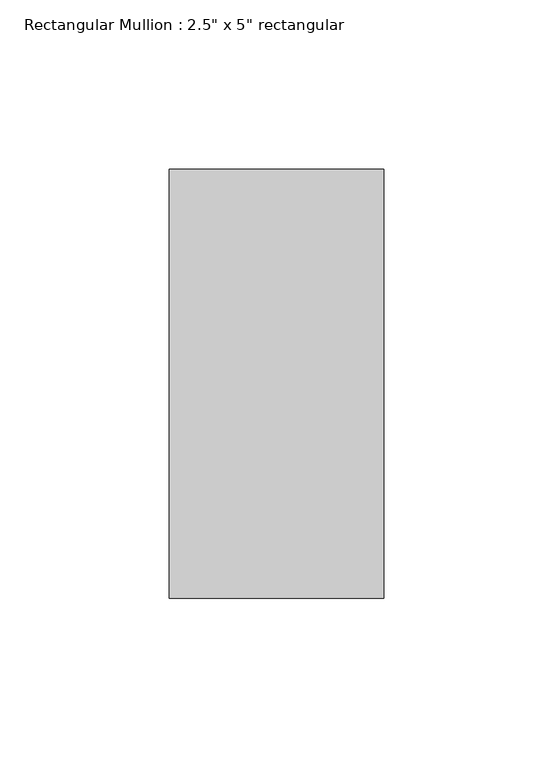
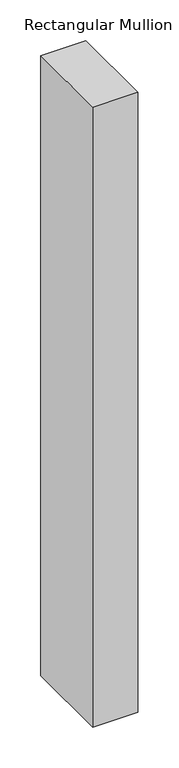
"""IFC4 building model written with IfcOpenShell, lengths in millimetres: member geometry."""

from ifc_helpers import new_model, si_unit, frame, origin, place, context, project, spatial, polyline, outline, extrude, source, transform, mapped, element, save


def member_e8c22809(model_context):
    return source(origin(), model_context, "Body", "SweptSolid", [
        extrude(outline(polyline([(0.0, 63.5), (0.0, -63.5), (-63.5, -63.5), (-63.5, 63.5), (0.0, 63.5)])), frame((0.0, 0.0, -925.0176127), z_axis=(0.0, 0.0, 1.0), x_axis=(1.0, 0.0, 0.0)), (0.0, 0.0, 1.0), 925.0176127),
    ])


if __name__ == "__main__":
    model = new_model("IFC4")
    model_context = context("Model", 3, world=origin())
    ifc_project = project(units=[si_unit("LENGTHUNIT", "METRE", prefix="MILLI")], contexts=[model_context])
    site = spatial("IfcSite", under=ifc_project)
    building = spatial("IfcBuilding", under=site)
    placement = place(None, origin())
    member_shape = member_e8c22809(model_context)
    element("IfcMember", 1, ObjectType="Rectangular Mullion : 2.5\" x 5\" rectangular", at=placement, inside=building, context=model_context, shape_type="MappedRepresentation", body=[
        mapped(member_shape, transform((0.0, 0.0, 0.0), x_axis=(1.0, 0.0, 0.0), y_axis=(0.0, 1.0, 0.0), z_axis=(0.0, 0.0, 1.0))),
    ])
    save(model, "model.ifc")
